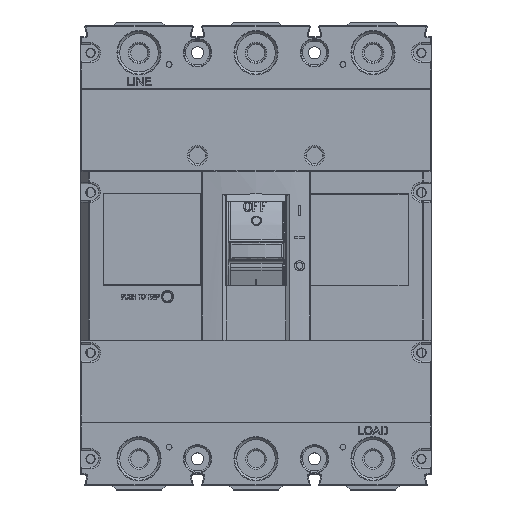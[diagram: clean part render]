
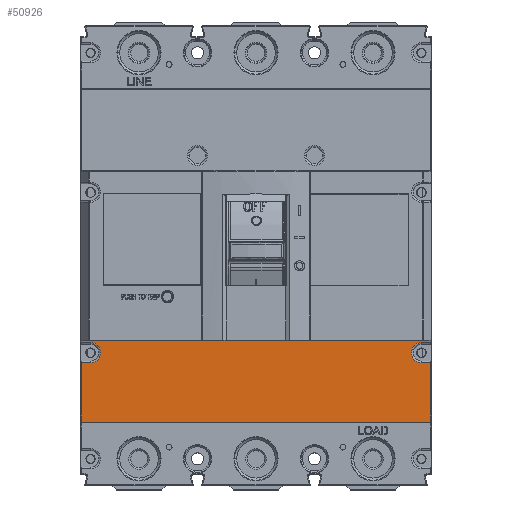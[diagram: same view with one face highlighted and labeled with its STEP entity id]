
A CAD part, top view. The second image highlights one B-rep face of the part: STEP entity #50926.
In plain terms, the highlighted planar face has unit normal (0, 0, 1).
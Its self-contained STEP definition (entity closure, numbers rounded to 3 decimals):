
#4495=DIRECTION('',(0.,-1.,0.));
#4496=VECTOR('',#4495,35.5);
#4497=CARTESIAN_POINT('',(-34.5,-64.,100.));
#4498=LINE('',#4497,#4496);
#4576=DIRECTION('',(1.,0.,0.));
#4577=VECTOR('',#4576,5.5);
#4578=CARTESIAN_POINT('',(-34.5,-52.,100.));
#4579=LINE('',#4578,#4577);
#4584=DIRECTION('',(1.,0.,0.));
#4585=VECTOR('',#4584,208.771);
#4586=CARTESIAN_POINT('',(-34.386,-51.,100.));
#4587=LINE('',#4586,#4585);
#4588=CARTESIAN_POINT('',(169.,-58.,100.));
#4589=DIRECTION('',(0.,0.,1.));
#4590=DIRECTION('',(0.,1.,0.));
#4591=AXIS2_PLACEMENT_3D('',#4588,#4589,#4590);
#4593=CARTESIAN_POINT('',(169.,-58.,100.));
#4594=DIRECTION('',(0.,0.,1.));
#4595=DIRECTION('',(-1.,0.,0.));
#4596=AXIS2_PLACEMENT_3D('',#4593,#4594,#4595);
#4598=CARTESIAN_POINT('',(-29.,-58.,100.));
#4599=DIRECTION('',(0.,0.,1.));
#4600=DIRECTION('',(0.,-1.,0.));
#4601=AXIS2_PLACEMENT_3D('',#4598,#4599,#4600);
#5850=CARTESIAN_POINT('',(174.5,-50.991,100.));
#5851=CARTESIAN_POINT('',(174.462,-50.997,100.));
#5852=CARTESIAN_POINT('',(174.424,-51.,100.));
#5853=CARTESIAN_POINT('',(174.386,-51.,100.));
#5863=DIRECTION('',(0.,1.,0.));
#5864=VECTOR('',#5863,1.009);
#5865=CARTESIAN_POINT('',(174.5,-52.,100.));
#5866=LINE('',#5865,#5864);
#5951=DIRECTION('',(0.,1.,0.));
#5952=VECTOR('',#5951,35.5);
#5953=CARTESIAN_POINT('',(174.5,-99.5,100.));
#5954=LINE('',#5953,#5952);
#6381=DIRECTION('',(1.,0.,0.));
#6382=VECTOR('',#6381,209.);
#6383=CARTESIAN_POINT('',(-34.5,-99.5,100.));
#6384=LINE('',#6383,#6382);
#15672=DIRECTION('',(-1.,0.,0.));
#15673=VECTOR('',#15672,5.5);
#15674=CARTESIAN_POINT('',(174.5,-64.,100.));
#15675=LINE('',#15674,#15673);
#15704=DIRECTION('',(1.,0.,0.));
#15705=VECTOR('',#15704,5.5);
#15706=CARTESIAN_POINT('',(169.,-52.,100.));
#15707=LINE('',#15706,#15705);
#17407=CARTESIAN_POINT('',(-34.386,-51.,100.));
#17408=CARTESIAN_POINT('',(-34.424,-51.,100.));
#17409=CARTESIAN_POINT('',(-34.462,-50.997,100.));
#17410=CARTESIAN_POINT('',(-34.5,-50.991,100.));
#17449=DIRECTION('',(0.,-1.,0.));
#17450=VECTOR('',#17449,1.009);
#17451=CARTESIAN_POINT('',(-34.5,-50.991,100.));
#17452=LINE('',#17451,#17450);
#26773=DIRECTION('',(-1.,0.,0.));
#26774=VECTOR('',#26773,5.5);
#26775=CARTESIAN_POINT('',(-29.,-64.,100.));
#26776=LINE('',#26775,#26774);
#39744=VERTEX_POINT('',#17407);
#39745=VERTEX_POINT('',#17410);
#39748=CARTESIAN_POINT('',(174.386,-51.,100.));
#39749=VERTEX_POINT('',#39748);
#39750=VERTEX_POINT('',#5850);
#39751=CARTESIAN_POINT('',(174.5,-52.,100.));
#39752=VERTEX_POINT('',#39751);
#39753=CARTESIAN_POINT('',(169.,-52.,100.));
#39754=VERTEX_POINT('',#39753);
#39755=CARTESIAN_POINT('',(163.,-58.,100.));
#39756=VERTEX_POINT('',#39755);
#39757=CARTESIAN_POINT('',(169.,-64.,100.));
#39758=VERTEX_POINT('',#39757);
#39759=CARTESIAN_POINT('',(174.5,-64.,100.));
#39760=VERTEX_POINT('',#39759);
#39761=CARTESIAN_POINT('',(174.5,-99.5,100.));
#39762=VERTEX_POINT('',#39761);
#39763=CARTESIAN_POINT('',(-34.5,-99.5,100.));
#39764=VERTEX_POINT('',#39763);
#39765=CARTESIAN_POINT('',(-34.5,-64.,100.));
#39766=VERTEX_POINT('',#39765);
#39767=CARTESIAN_POINT('',(-29.,-64.,100.));
#39768=VERTEX_POINT('',#39767);
#39769=CARTESIAN_POINT('',(-29.,-52.,100.));
#39770=VERTEX_POINT('',#39769);
#39771=CARTESIAN_POINT('',(-34.5,-52.,100.));
#39772=VERTEX_POINT('',#39771);
#50891=CARTESIAN_POINT('',(-35.,-51.,100.));
#50892=DIRECTION('',(0.,0.,1.));
#50893=DIRECTION('',(1.,0.,0.));
#50894=AXIS2_PLACEMENT_3D('',#50891,#50892,#50893);
#50895=PLANE('',#50894);
#50897=ORIENTED_EDGE('',*,*,#50896,.T.);
#50899=ORIENTED_EDGE('',*,*,#50898,.F.);
#50901=ORIENTED_EDGE('',*,*,#50900,.F.);
#50903=ORIENTED_EDGE('',*,*,#50902,.F.);
#50905=ORIENTED_EDGE('',*,*,#50904,.T.);
#50907=ORIENTED_EDGE('',*,*,#50906,.T.);
#50909=ORIENTED_EDGE('',*,*,#50908,.F.);
#50911=ORIENTED_EDGE('',*,*,#50910,.F.);
#50913=ORIENTED_EDGE('',*,*,#50912,.F.);
#50914=ORIENTED_EDGE('',*,*,#50758,.F.);
#50916=ORIENTED_EDGE('',*,*,#50915,.F.);
#50918=ORIENTED_EDGE('',*,*,#50917,.T.);
#50919=ORIENTED_EDGE('',*,*,#50881,.F.);
#50921=ORIENTED_EDGE('',*,*,#50920,.F.);
#50923=ORIENTED_EDGE('',*,*,#50922,.F.);
#50924=EDGE_LOOP('',(#50897,#50899,#50901,#50903,#50905,#50907,#50909,#50911,
#50913,#50914,#50916,#50918,#50919,#50921,#50923));
#50925=FACE_OUTER_BOUND('',#50924,.F.);
#50926=ADVANCED_FACE('',(#50925),#50895,.T.);
#4592=CIRCLE('',#4591,6.);
#4597=CIRCLE('',#4596,6.);
#4602=CIRCLE('',#4601,6.);
#5854=B_SPLINE_CURVE_WITH_KNOTS('',3,(#5850,#5851,#5852,#5853),.UNSPECIFIED.,
.F.,.F.,(4,4),(0.,1.),.UNSPECIFIED.);
#17411=B_SPLINE_CURVE_WITH_KNOTS('',3,(#17407,#17408,#17409,#17410),
.UNSPECIFIED.,.F.,.F.,(4,4),(0.,1.),.UNSPECIFIED.);
#50758=EDGE_CURVE('',#39766,#39764,#4498,.T.);
#50881=EDGE_CURVE('',#39772,#39770,#4579,.T.);
#50896=EDGE_CURVE('',#39744,#39749,#4587,.T.);
#50898=EDGE_CURVE('',#39750,#39749,#5854,.T.);
#50900=EDGE_CURVE('',#39752,#39750,#5866,.T.);
#50902=EDGE_CURVE('',#39754,#39752,#15707,.T.);
#50904=EDGE_CURVE('',#39754,#39756,#4592,.T.);
#50906=EDGE_CURVE('',#39756,#39758,#4597,.T.);
#50908=EDGE_CURVE('',#39760,#39758,#15675,.T.);
#50910=EDGE_CURVE('',#39762,#39760,#5954,.T.);
#50912=EDGE_CURVE('',#39764,#39762,#6384,.T.);
#50915=EDGE_CURVE('',#39768,#39766,#26776,.T.);
#50917=EDGE_CURVE('',#39768,#39770,#4602,.T.);
#50920=EDGE_CURVE('',#39745,#39772,#17452,.T.);
#50922=EDGE_CURVE('',#39744,#39745,#17411,.T.);
